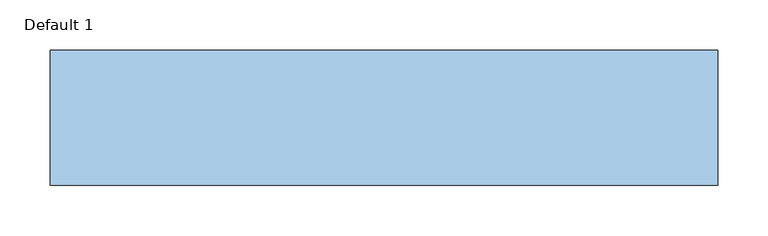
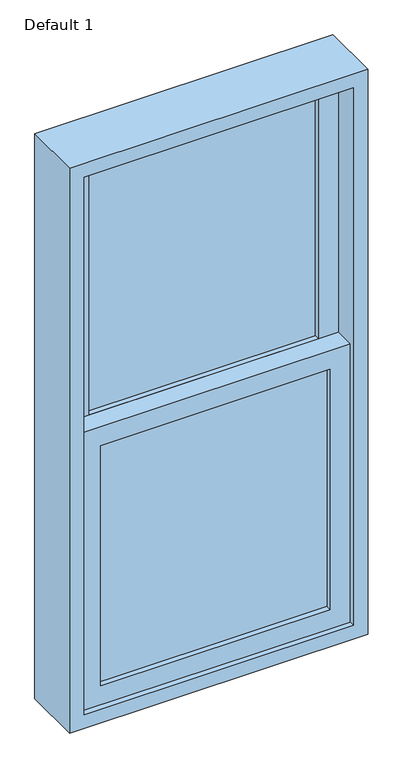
"""IFC4 building model written with IfcOpenShell, lengths in millimetres: window geometry, Planitar-Double-Hung-Single : Default 1."""

import ifcopenshell
import ifcopenshell.guid

model = None  # the IFC model being written
_history = None  # IfcOwnerHistory: only IFC2X3 demands one
_inside = {}  # id of a spatial element -> (the spatial element, [elements in it])
_under = {}  # id of a project, library or spatial element -> (it, [spatial elements below it])
_declared = {}  # id of a project -> (the project, [libraries it declares])
_typed = {}  # id of a type object -> (the type object, [elements of that type])
_made_of = {}  # id of a material, layer set ... -> (it, [elements and type objects made of it])


def new_model(schema):
    """Start an empty IFC model of exactly this schema.

    Asked for "IFC4X3", IfcOpenShell would pick the latest addendum, in which some entities
    have other attributes; the version numbers below select the first issue.
    IFC2X3 requires an IfcOwnerHistory on every rooted entity: one is made here for all.
    """
    global model, _history
    if schema == "IFC4X3":
        model = ifcopenshell.file(schema_version=(4, 3, 0, 0))
    else:
        model = ifcopenshell.file(schema=schema)
    _inside.clear()
    _under.clear()
    _declared.clear()
    _typed.clear()
    _made_of.clear()
    _history = None
    if model.schema == "IFC2X3":
        org = make("IfcOrganization", Name="unknown")
        user = make(
            "IfcPersonAndOrganization",
            ThePerson=make("IfcPerson", FamilyName="unknown"),
            TheOrganization=org,
        )
        app = make(
            "IfcApplication",
            ApplicationDeveloper=org,
            Version="unknown",
            ApplicationFullName="unknown",
            ApplicationIdentifier="unknown",
        )
        _history = make(
            "IfcOwnerHistory",
            OwningUser=user,
            OwningApplication=app,
            ChangeAction="ADDED",
            CreationDate=0,
        )
    return model


def make(cls, **values):
    """One entity of the class cls with the attributes given. An attribute that is None is left unset."""
    return model.create_entity(
        cls, **{name: value for name, value in values.items() if value is not None}
    )


def rooted(cls, **values):
    """An entity with a GlobalId (a new one), such as an element, a storey or a relation."""
    return make(cls, GlobalId=ifcopenshell.guid.new(), OwnerHistory=_history, **values)


def si_unit(unit_type, name, prefix=None):
    """IfcSIUnit, for example si_unit("LENGTHUNIT", "METRE", prefix="MILLI")."""
    return make("IfcSIUnit", UnitType=unit_type, Prefix=prefix, Name=name)


def assignment(units):
    """IfcUnitAssignment: the units of a project."""
    return None if units is None else make("IfcUnitAssignment", Units=units)


def point(xyz):
    """IfcCartesianPoint."""
    return None if xyz is None else make("IfcCartesianPoint", Coordinates=xyz)


def direction(xyz):
    """IfcDirection."""
    return None if xyz is None else make("IfcDirection", DirectionRatios=xyz)


def frame(location, z_axis=None, x_axis=None):
    """IfcAxis2Placement3D, a coordinate frame: its origin and axes. An axis left out is left unset."""
    return make(
        "IfcAxis2Placement3D",
        Location=point(location),
        Axis=direction(z_axis),
        RefDirection=direction(x_axis),
    )


def origin():
    """The frame at (0, 0, 0) with its axes left unset."""
    return frame((0.0, 0.0, 0.0))


def place(relative_to, where):
    """IfcLocalPlacement: puts the frame where relative to a parent placement (None: the world)."""
    return make(
        "IfcLocalPlacement", PlacementRelTo=relative_to, RelativePlacement=where
    )


def context(
    kind, dimensions, precision=None, world=None, true_north=None, identifier=None
):
    """IfcGeometricRepresentationContext, for example the 3D "Model" context."""
    return make(
        "IfcGeometricRepresentationContext",
        ContextIdentifier=identifier,
        ContextType=kind,
        CoordinateSpaceDimension=dimensions,
        Precision=precision,
        WorldCoordinateSystem=world,
        TrueNorth=true_north,
    )


def project(units=None, contexts=None):
    """IfcProject with its units and contexts."""
    return rooted(
        "IfcProject",
        Name="project",
        RepresentationContexts=contexts,
        UnitsInContext=assignment(units),
    )


def spatial(cls, under=None, at=None, **own):
    """A site, building, storey or space (cls), placed at a placement, below another one or the project."""
    s = rooted(cls, ObjectPlacement=at, **own)
    if under is not None:
        _under.setdefault(under.id(), (under, []))[1].append(s)
    return s


def polyline(points):
    """IfcPolyline through the points."""
    return make("IfcPolyline", Points=[point(p) for p in points])


def outline(outer, holes=None, kind="AREA"):
    """IfcArbitraryClosedProfileDef: a profile drawn as a closed curve; with holes, ...WithVoids."""
    if holes is None:
        return make("IfcArbitraryClosedProfileDef", ProfileType=kind, OuterCurve=outer)
    return make(
        "IfcArbitraryProfileDefWithVoids",
        ProfileType=kind,
        OuterCurve=outer,
        InnerCurves=holes,
    )


def extrude(swept, where, along, depth):
    """IfcExtrudedAreaSolid: the profile swept, set in the frame where, extruded along a direction by depth."""
    return make(
        "IfcExtrudedAreaSolid",
        SweptArea=swept,
        Position=where,
        ExtrudedDirection=direction(along),
        Depth=depth,
    )


def shape(context_of_items, identifier, shape_type, items):
    """IfcShapeRepresentation: the items that make up one representation, for example the "Body"."""
    return make(
        "IfcShapeRepresentation",
        ContextOfItems=context_of_items,
        RepresentationIdentifier=identifier,
        RepresentationType=shape_type,
        Items=items,
    )


def source(mapping_origin, context_of_items, identifier, shape_type, items):
    """IfcRepresentationMap: a shape defined once, which mapped items show again and again."""
    return make(
        "IfcRepresentationMap",
        MappingOrigin=mapping_origin,
        MappedRepresentation=shape(context_of_items, identifier, shape_type, items),
    )


def transform(
    local_origin,
    x_axis=None,
    y_axis=None,
    z_axis=None,
    scale=None,
    scale2=None,
    scale3=None,
    uniform=True,
):
    """IfcCartesianTransformationOperator3D, or its non-uniform kind. x_axis, y_axis, z_axis: its Axis1, 2, 3."""
    if uniform:
        return make(
            "IfcCartesianTransformationOperator3D",
            Axis1=direction(x_axis),
            Axis2=direction(y_axis),
            LocalOrigin=point(local_origin),
            Scale=scale,
            Axis3=direction(z_axis),
        )
    return make(
        "IfcCartesianTransformationOperator3DnonUniform",
        Axis1=direction(x_axis),
        Axis2=direction(y_axis),
        LocalOrigin=point(local_origin),
        Scale=scale,
        Axis3=direction(z_axis),
        Scale2=scale2,
        Scale3=scale3,
    )


def mapped(mapping_source, mapping_target):
    """IfcMappedItem: shows the shape of a source again, moved by a transform."""
    return make(
        "IfcMappedItem", MappingSource=mapping_source, MappingTarget=mapping_target
    )


def made_of(thing, what):
    """Note that an element or type object is made of a material, layer set ...; save() writes the relation."""
    if what is not None:
        _made_of.setdefault(what.id(), (what, []))[1].append(thing)
    return thing


def element(
    cls,
    number,
    at=None,
    inside=None,
    cuts=None,
    type_object=None,
    material=None,
    context=None,
    identifier="Body",
    shape_type=None,
    held_by="IfcProductDefinitionShape",
    body=None,
    shapes=None,
    **own,
):
    """One element of the class cls, such as IfcWall. Its Tag is "e" and its number.

    at: its placement. inside: the storey or other place that contains it. cuts: it is an
    opening in that element (IfcRelVoidsElement). A single representation is given by context,
    identifier, shape_type and body (its items); several are given by shapes. held_by: the class
    of the entity that holds the representations. save() writes the other relations.
    """
    e = rooted(cls, Tag="e%d" % number, ObjectPlacement=at, **own)
    if body is not None:
        shapes = [shape(context, identifier, shape_type, body)]
    if shapes is not None:
        e.Representation = make(held_by, Representations=shapes)
    if inside is not None:
        _inside.setdefault(inside.id(), (inside, []))[1].append(e)
    if cuts is not None:
        rooted(
            "IfcRelVoidsElement", RelatingBuildingElement=cuts, RelatedOpeningElement=e
        )
    if type_object is not None:
        _typed.setdefault(type_object.id(), (type_object, []))[1].append(e)
    return made_of(e, material)


def aggregate(whole, parts):
    """IfcRelAggregates: a whole, such as a stair, and the parts it consists of."""
    return rooted("IfcRelAggregates", RelatingObject=whole, RelatedObjects=parts)


def save(model, path):
    """Write the relations noted so far, then the file.

    IfcRelAggregates (storeys below a building ...), IfcRelContainedInSpatialStructure (elements
    in a storey), IfcRelDefinesByType, IfcRelAssociatesMaterial and IfcRelDeclares: one each for
    every whole, place, type object, material and project.
    """
    for whole, parts in _under.values():
        aggregate(whole, parts)
    for where, things in _inside.values():
        rooted(
            "IfcRelContainedInSpatialStructure",
            RelatedElements=things,
            RelatingStructure=where,
        )
    for kind, things in _typed.values():
        rooted("IfcRelDefinesByType", RelatedObjects=things, RelatingType=kind)
    for what, things in _made_of.values():
        rooted("IfcRelAssociatesMaterial", RelatedObjects=things, RelatingMaterial=what)
    for by, libraries in _declared.values():
        rooted("IfcRelDeclares", RelatingContext=by, RelatedDefinitions=libraries)
    model.write(path)


def default_1_c46f66dc(model_context):
    return source(origin(), model_context, "Body", "SweptSolid", [
        extrude(outline(polyline([(254.0, -12.7), (254.0, -19.05), (-254.0, -19.05), (-254.0, -12.7), (254.0, -12.7)])), frame((0.0, 0.0, 990.6), z_axis=(0.0, 0.0, 1.0), x_axis=(1.0, 0.0, 0.0)), (0.0, 0.0, 1.0), 561.975),
        extrude(outline(polyline([(-254.0, -25.4), (254.0, -25.4), (254.0, -31.75), (-254.0, -31.75), (-254.0, -25.4)])), frame((0.0, 0.0, 990.6), z_axis=(0.0, 0.0, 1.0), x_axis=(1.0, 0.0, 0.0)), (0.0, 0.0, 1.0), 561.975),
        extrude(outline(polyline([(254.0, 31.75), (254.0, 25.4), (-254.0, 25.4), (-254.0, 31.75), (254.0, 31.75)])), frame((0.0, 0.0, 1597.025), z_axis=(0.0, 0.0, 1.0), x_axis=(1.0, 0.0, 0.0)), (0.0, 0.0, 1.0), 561.975),
        extrude(outline(polyline([(-254.0, 19.05), (254.0, 19.05), (254.0, 12.7), (-254.0, 12.7), (-254.0, 19.05)])), frame((0.0, 0.0, 1597.025), z_axis=(0.0, 0.0, 1.0), x_axis=(1.0, 0.0, 0.0)), (0.0, 0.0, 1.0), 561.975),
        extrude(outline(polyline([(1597.025, -298.45), (946.15, -298.45), (946.15, 298.45), (1597.025, 298.45), (1597.025, -298.45)]), holes=[polyline([(1552.575, 254.0), (990.6, 254.0), (990.6, -254.0), (1552.575, -254.0), (1552.575, 254.0)])]), frame((0.0, -44.45, 0.0), z_axis=(0.0, 1.0, 0.0), x_axis=(0.0, 0.0, 1.0)), (0.0, 0.0, 1.0), 44.45),
        extrude(outline(polyline([(2203.45, -298.45), (1552.575, -298.45), (1552.575, 298.45), (2203.45, 298.45), (2203.45, -298.45)]), holes=[polyline([(2159.0, 254.0), (1597.025, 254.0), (1597.025, -254.0), (2159.0, -254.0), (2159.0, 254.0)])]), frame((0.0, 0.0, 0.0), z_axis=(0.0, 1.0, 0.0), x_axis=(0.0, 0.0, 1.0)), (0.0, 0.0, 1.0), 44.45),
        extrude(outline(polyline([(2235.2, -330.2), (914.4, -330.2), (914.4, 330.2), (2235.2, 330.2), (2235.2, -330.2)]), holes=[polyline([(2203.45, 298.45), (946.15, 298.45), (946.15, -298.45), (2203.45, -298.45), (2203.45, 298.45)])]), frame((0.0, -57.15, 0.0), z_axis=(0.0, 1.0, 0.0), x_axis=(0.0, 0.0, 1.0)), (0.0, 0.0, 1.0), 133.35),
    ])


if __name__ == "__main__":
    model = new_model("IFC4")
    model_context = context("Model", 3, world=origin())
    ifc_project = project(units=[si_unit("LENGTHUNIT", "METRE", prefix="MILLI")], contexts=[model_context])
    site = spatial("IfcSite", under=ifc_project)
    building = spatial("IfcBuilding", under=site)
    placement = place(None, origin())
    default_1_shape = default_1_c46f66dc(model_context)
    element("IfcWindow", 1, ObjectType="Planitar-Double-Hung-Single : Default 1", at=placement, inside=building, context=model_context, shape_type="MappedRepresentation", body=[
        mapped(default_1_shape, transform((0.0, 0.0, 0.0), x_axis=(1.0, 0.0, 0.0), y_axis=(0.0, 1.0, 0.0), z_axis=(0.0, 0.0, 1.0))),
    ])
    save(model, "model.ifc")
